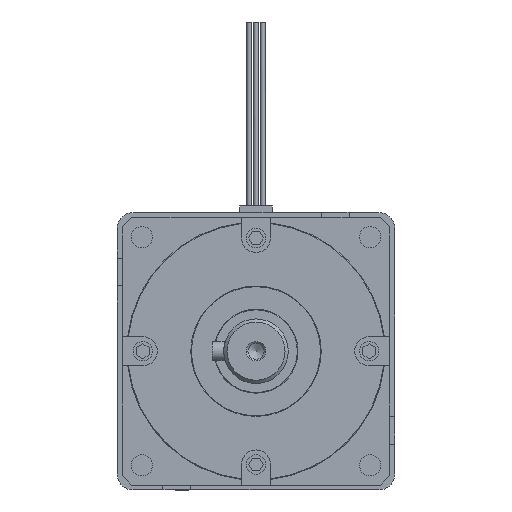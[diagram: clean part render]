
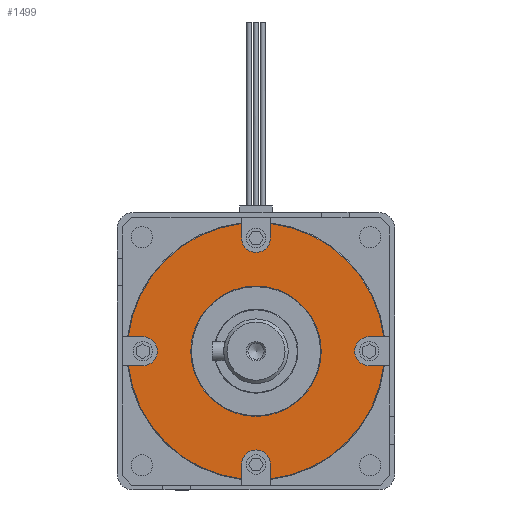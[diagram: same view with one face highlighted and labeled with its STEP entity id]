
A CAD part, front view. The second image highlights one B-rep face of the part: STEP entity #1499.
In plain terms, the highlighted planar face has unit normal (0, -1, 0) as drawn and (0, 0, 1) by its records, which use the part's own axes.
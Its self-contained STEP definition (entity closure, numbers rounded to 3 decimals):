
#908=FACE_BOUND('',#2256,.T.);
#909=FACE_BOUND('',#2257,.T.);
#1267=CIRCLE('',#6394,20.2);
#1268=CIRCLE('',#6395,39.8);
#1269=CIRCLE('',#6396,4.5);
#1270=CIRCLE('',#6397,39.8);
#1271=CIRCLE('',#6398,4.5);
#1272=CIRCLE('',#6399,39.8);
#1273=CIRCLE('',#6400,4.5);
#1274=CIRCLE('',#6401,39.8);
#1275=CIRCLE('',#6402,4.5);
#1499=ADVANCED_FACE('',(#908,#909),#1712,.T.);
#1712=PLANE('',#6403);
#2256=EDGE_LOOP('',(#3462));
#2257=EDGE_LOOP('',(#3463,#3464,#3465,#3466,#3467,#3468,#3469,#3470,#3471,
#3472,#3473,#3474,#3475,#3476,#3477,#3478));
#3462=ORIENTED_EDGE('',*,*,#4916,.T.);
#3463=ORIENTED_EDGE('',*,*,#4917,.F.);
#3464=ORIENTED_EDGE('',*,*,#4918,.T.);
#3465=ORIENTED_EDGE('',*,*,#4919,.F.);
#3466=ORIENTED_EDGE('',*,*,#4920,.F.);
#3467=ORIENTED_EDGE('',*,*,#4921,.F.);
#3468=ORIENTED_EDGE('',*,*,#4922,.T.);
#3469=ORIENTED_EDGE('',*,*,#4923,.F.);
#3470=ORIENTED_EDGE('',*,*,#4924,.F.);
#3471=ORIENTED_EDGE('',*,*,#4925,.F.);
#3472=ORIENTED_EDGE('',*,*,#4926,.T.);
#3473=ORIENTED_EDGE('',*,*,#4927,.F.);
#3474=ORIENTED_EDGE('',*,*,#4928,.F.);
#3475=ORIENTED_EDGE('',*,*,#4929,.F.);
#3476=ORIENTED_EDGE('',*,*,#4930,.T.);
#3477=ORIENTED_EDGE('',*,*,#4931,.F.);
#3478=ORIENTED_EDGE('',*,*,#4932,.F.);
#4235=VERTEX_POINT('',#9620);
#4236=VERTEX_POINT('',#9622);
#4237=VERTEX_POINT('',#9623);
#4238=VERTEX_POINT('',#9625);
#4239=VERTEX_POINT('',#9627);
#4240=VERTEX_POINT('',#9629);
#4241=VERTEX_POINT('',#9631);
#4242=VERTEX_POINT('',#9633);
#4243=VERTEX_POINT('',#9635);
#4244=VERTEX_POINT('',#9637);
#4245=VERTEX_POINT('',#9639);
#4246=VERTEX_POINT('',#9641);
#4247=VERTEX_POINT('',#9643);
#4248=VERTEX_POINT('',#9645);
#4249=VERTEX_POINT('',#9647);
#4250=VERTEX_POINT('',#9649);
#4251=VERTEX_POINT('',#9651);
#4916=EDGE_CURVE('',#4235,#4235,#1267,.T.);
#4917=EDGE_CURVE('',#4236,#4237,#5430,.T.);
#4918=EDGE_CURVE('',#4236,#4238,#1268,.T.);
#4919=EDGE_CURVE('',#4239,#4238,#5431,.T.);
#4920=EDGE_CURVE('',#4240,#4239,#1269,.T.);
#4921=EDGE_CURVE('',#4241,#4240,#5432,.T.);
#4922=EDGE_CURVE('',#4241,#4242,#1270,.T.);
#4923=EDGE_CURVE('',#4243,#4242,#5433,.T.);
#4924=EDGE_CURVE('',#4244,#4243,#1271,.T.);
#4925=EDGE_CURVE('',#4245,#4244,#5434,.T.);
#4926=EDGE_CURVE('',#4245,#4246,#1272,.T.);
#4927=EDGE_CURVE('',#4247,#4246,#5435,.T.);
#4928=EDGE_CURVE('',#4248,#4247,#1273,.T.);
#4929=EDGE_CURVE('',#4249,#4248,#5436,.T.);
#4930=EDGE_CURVE('',#4249,#4250,#1274,.T.);
#4931=EDGE_CURVE('',#4251,#4250,#5437,.T.);
#4932=EDGE_CURVE('',#4237,#4251,#1275,.T.);
#5430=LINE('',#9621,#5907);
#5431=LINE('',#9626,#5908);
#5432=LINE('',#9630,#5909);
#5433=LINE('',#9634,#5910);
#5434=LINE('',#9638,#5911);
#5435=LINE('',#9642,#5912);
#5436=LINE('',#9646,#5913);
#5437=LINE('',#9650,#5914);
#5907=VECTOR('',#7691,1.);
#5908=VECTOR('',#7694,1.);
#5909=VECTOR('',#7697,1.);
#5910=VECTOR('',#7700,1.);
#5911=VECTOR('',#7703,1.);
#5912=VECTOR('',#7706,1.);
#5913=VECTOR('',#7709,1.);
#5914=VECTOR('',#7712,1.);
#6394=AXIS2_PLACEMENT_3D('',#9619,#7689,#7690);
#6395=AXIS2_PLACEMENT_3D('',#9624,#7692,#7693);
#6396=AXIS2_PLACEMENT_3D('',#9628,#7695,#7696);
#6397=AXIS2_PLACEMENT_3D('',#9632,#7698,#7699);
#6398=AXIS2_PLACEMENT_3D('',#9636,#7701,#7702);
#6399=AXIS2_PLACEMENT_3D('',#9640,#7704,#7705);
#6400=AXIS2_PLACEMENT_3D('',#9644,#7707,#7708);
#6401=AXIS2_PLACEMENT_3D('',#9648,#7710,#7711);
#6402=AXIS2_PLACEMENT_3D('',#9652,#7713,#7714);
#6403=AXIS2_PLACEMENT_3D('',#9653,#7715,#7716);
#7689=DIRECTION('',(0.,0.,-1.));
#7690=DIRECTION('',(1.,0.,0.));
#7691=DIRECTION('',(-1.,0.,0.));
#7692=DIRECTION('',(0.,0.,1.));
#7693=DIRECTION('',(1.,0.,0.));
#7694=DIRECTION('',(0.,1.,0.));
#7695=DIRECTION('',(0.,0.,1.));
#7696=DIRECTION('',(1.,0.,0.));
#7697=DIRECTION('',(0.,-1.,0.));
#7698=DIRECTION('',(0.,0.,1.));
#7699=DIRECTION('',(1.,0.,0.));
#7700=DIRECTION('',(-1.,0.,0.));
#7701=DIRECTION('',(0.,0.,1.));
#7702=DIRECTION('',(0.,1.,0.));
#7703=DIRECTION('',(1.,0.,0.));
#7704=DIRECTION('',(0.,0.,1.));
#7705=DIRECTION('',(1.,0.,0.));
#7706=DIRECTION('',(0.,-1.,0.));
#7707=DIRECTION('',(0.,0.,1.));
#7708=DIRECTION('',(-1.,0.,0.));
#7709=DIRECTION('',(0.,1.,0.));
#7710=DIRECTION('',(0.,0.,1.));
#7711=DIRECTION('',(1.,0.,0.));
#7712=DIRECTION('',(1.,0.,0.));
#7713=DIRECTION('',(0.,0.,1.));
#7714=DIRECTION('',(0.,-1.,0.));
#7715=DIRECTION('',(0.,0.,1.));
#7716=DIRECTION('',(1.,0.,0.));
#9619=CARTESIAN_POINT('',(0.,0.,104.5));
#9620=CARTESIAN_POINT('',(20.2,0.,104.5));
#9621=CARTESIAN_POINT('',(43.738,4.5,104.5));
#9622=CARTESIAN_POINT('',(39.545,4.5,104.5));
#9623=CARTESIAN_POINT('',(35.1,4.5,104.5));
#9624=CARTESIAN_POINT('',(0.,0.,104.5));
#9625=CARTESIAN_POINT('',(4.5,39.545,104.5));
#9626=CARTESIAN_POINT('',(4.5,35.1,104.5));
#9627=CARTESIAN_POINT('',(4.5,35.1,104.5));
#9628=CARTESIAN_POINT('',(0.,35.1,104.5));
#9629=CARTESIAN_POINT('',(-4.5,35.1,104.5));
#9630=CARTESIAN_POINT('',(-4.5,43.738,104.5));
#9631=CARTESIAN_POINT('',(-4.5,39.545,104.5));
#9632=CARTESIAN_POINT('',(0.,0.,104.5));
#9633=CARTESIAN_POINT('',(-39.545,4.5,104.5));
#9634=CARTESIAN_POINT('',(-35.1,4.5,104.5));
#9635=CARTESIAN_POINT('',(-35.1,4.5,104.5));
#9636=CARTESIAN_POINT('',(-35.1,0.,104.5));
#9637=CARTESIAN_POINT('',(-35.1,-4.5,104.5));
#9638=CARTESIAN_POINT('',(-43.738,-4.5,104.5));
#9639=CARTESIAN_POINT('',(-39.545,-4.5,104.5));
#9640=CARTESIAN_POINT('',(0.,0.,104.5));
#9641=CARTESIAN_POINT('',(-4.5,-39.545,104.5));
#9642=CARTESIAN_POINT('',(-4.5,-35.1,104.5));
#9643=CARTESIAN_POINT('',(-4.5,-35.1,104.5));
#9644=CARTESIAN_POINT('',(0.,-35.1,104.5));
#9645=CARTESIAN_POINT('',(4.5,-35.1,104.5));
#9646=CARTESIAN_POINT('',(4.5,-43.738,104.5));
#9647=CARTESIAN_POINT('',(4.5,-39.545,104.5));
#9648=CARTESIAN_POINT('',(0.,0.,104.5));
#9649=CARTESIAN_POINT('',(39.545,-4.5,104.5));
#9650=CARTESIAN_POINT('',(35.1,-4.5,104.5));
#9651=CARTESIAN_POINT('',(35.1,-4.5,104.5));
#9652=CARTESIAN_POINT('',(35.1,0.,104.5));
#9653=CARTESIAN_POINT('',(0.,0.,104.5));
